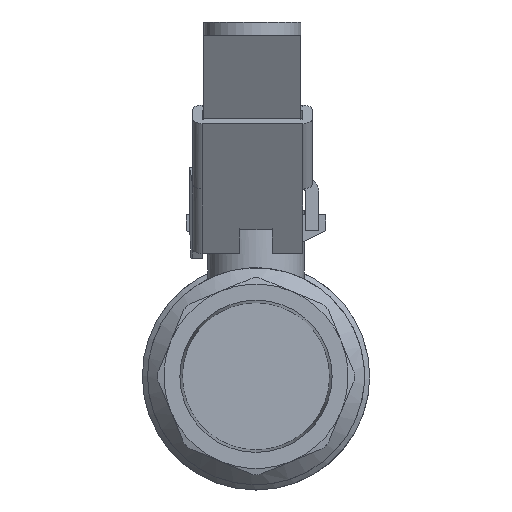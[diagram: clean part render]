
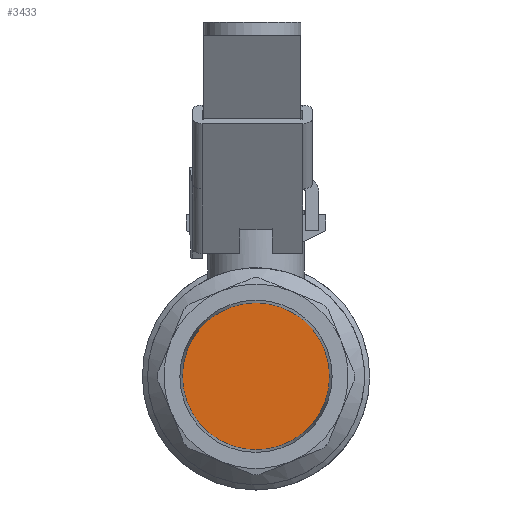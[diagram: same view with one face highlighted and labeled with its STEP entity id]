
A CAD part, left-side view. The second image highlights one B-rep face of the part: STEP entity #3433.
In plain terms, the highlighted free-form (B-spline) face has degree [1, 1] with [2, 2] control points.
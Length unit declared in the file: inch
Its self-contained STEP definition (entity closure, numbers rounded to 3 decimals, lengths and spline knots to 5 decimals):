
#3417=CARTESIAN_POINT('',(0.6609,0.59867,0.59866));
#3418=CARTESIAN_POINT('',(0.6609,-0.59866,0.59866));
#3419=CARTESIAN_POINT('',(0.6609,0.59867,-0.59866));
#3420=CARTESIAN_POINT('',(0.6609,-0.59866,-0.59866));
#3421=B_SPLINE_SURFACE_WITH_KNOTS('',1,1,((#3417,#3419),(#3418,#3420)),.UNSPECIFIED.,.F.,.F.,.U.,(2,2),(2,2),(0.0,1.19733),(0.0,1.19733),.UNSPECIFIED.);
#3422=CARTESIAN_POINT('',(0.6609,0.59867,0.0));
#3423=VERTEX_POINT('',#3422);
#3424=CARTESIAN_POINT('',(0.6609,0.0,0.0));
#3425=DIRECTION('',(1.0,0.0,0.0));
#3426=DIRECTION('',(0.0,1.0,0.0));
#3427=AXIS2_PLACEMENT_3D('',#3424,#3425,#3426);
#3428=CIRCLE('',#3427,0.59866);
#3429=EDGE_CURVE('',#3423,#3423,#3428,.T.);
#3430=ORIENTED_EDGE('',*,*,#3429,.F.);
#3431=EDGE_LOOP('',(#3430));
#3432=FACE_OUTER_BOUND('',#3431,.T.);
#3433=ADVANCED_FACE('',(#3432),#3421,.F.);
